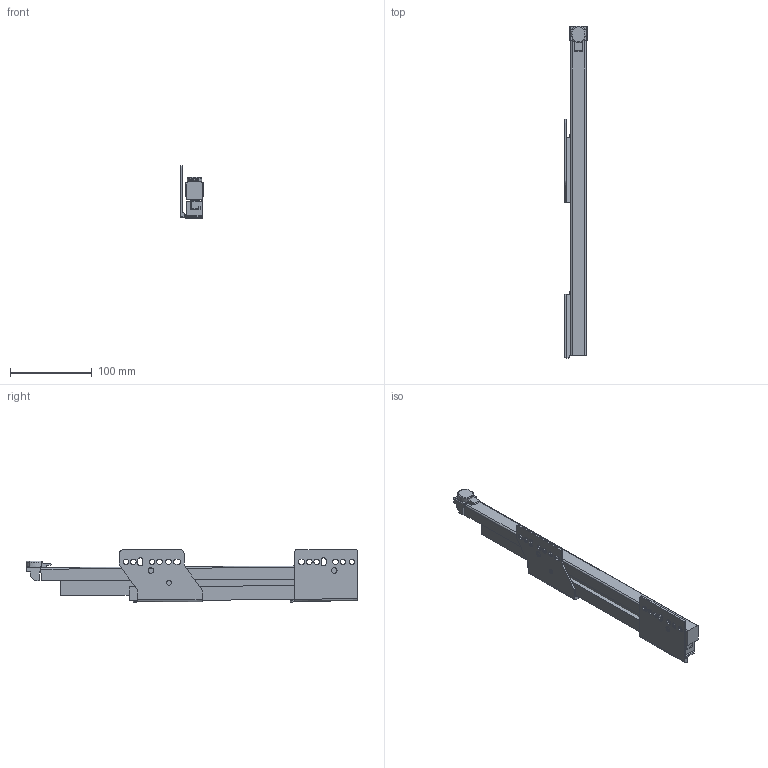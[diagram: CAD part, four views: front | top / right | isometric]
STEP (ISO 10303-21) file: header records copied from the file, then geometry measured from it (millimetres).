
FILE_DESCRIPTION (( 'STEP AP214' ), '1' );
FILE_NAME ('_IMOS_NOVA-Pro_KS_TL_EB29mm_LI_NL400.step', '2010-07-15T11:34:21', ( 'grass' ), ( '' ), 'SwSTEP 2.0', 'SolidWorks 2009', '' );
FILE_SCHEMA (( 'AUTOMOTIVE_DESIGN' ));
Length unit declared in the file: millimetre
Products named in the file (1): _IMOS_NOVA-Pro_KS_TL_EB29mm_LI_NL400
Bounding box: 27.9 x 405.61 x 64.46 mm (x, y, z)
Volume: 283281 mm3; surface area: 123278.3 mm2
Topology: 8 solids, 8 shells, 185 faces, 496 edges, 328 vertices
Faces by surface type: plane 116, cylinder 64, torus 5
Entity records: 5964 total; most frequent: CARTESIAN_POINT 1097, ORIENTED_EDGE 992, DIRECTION 972, EDGE_CURVE 496, LINE 350, VECTOR 350, VERTEX_POINT 328, AXIS2_PLACEMENT_3D 311
